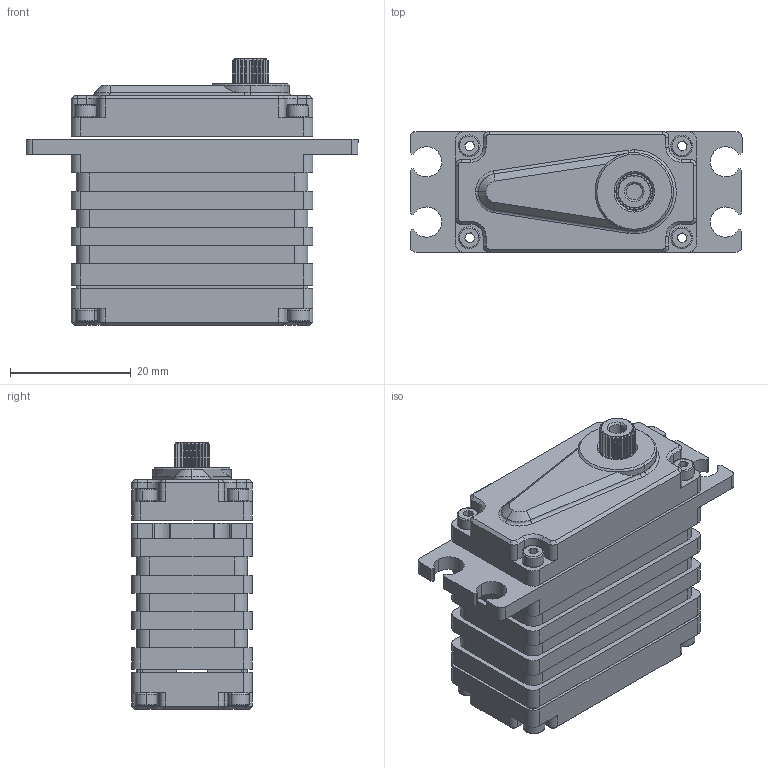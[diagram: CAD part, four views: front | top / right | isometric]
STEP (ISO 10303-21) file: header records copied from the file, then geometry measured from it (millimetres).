
FILE_DESCRIPTION (( 'STEP AP214' ), '1' );
FILE_NAME ('HLS1535-12_DM_20221020.STEP', '2023-10-30T03:10:21', ( '' ), ( '' ), 'SwSTEP 2.0', 'SolidWorks 2016', '' );
FILE_SCHEMA (( 'AUTOMOTIVE_DESIGN' ));
Length unit declared in the file: millimetre
Products named in the file (1): HLS1535-12_DM_20221020
Bounding box: 55 x 20 x 44.1 mm (x, y, z)
Surface area: 9242.1 mm2 (no closed solid volume)
Topology: 0 solids, 17 shells, 505 faces, 1447 edges, 967 vertices
Faces by surface type: plane 243, cylinder 167, cone 58, bspline 37
Entity records: 22684 total; most frequent: CARTESIAN_POINT 3938, DIRECTION 2765, ORIENTED_EDGE 2700, EDGE_CURVE 1447, VERTEX_POINT 967, AXIS2_PLACEMENT_3D 946, VECTOR 873, LINE 873
